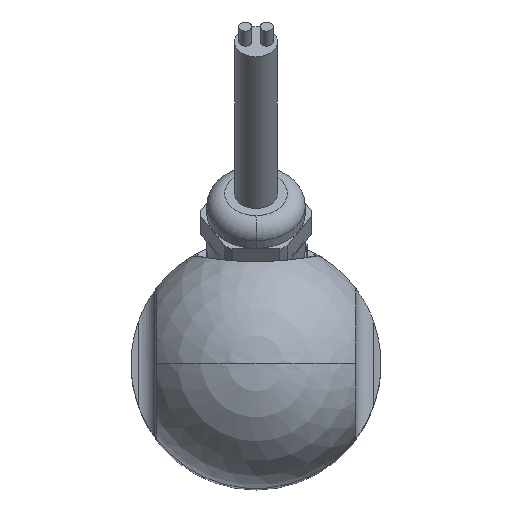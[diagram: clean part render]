
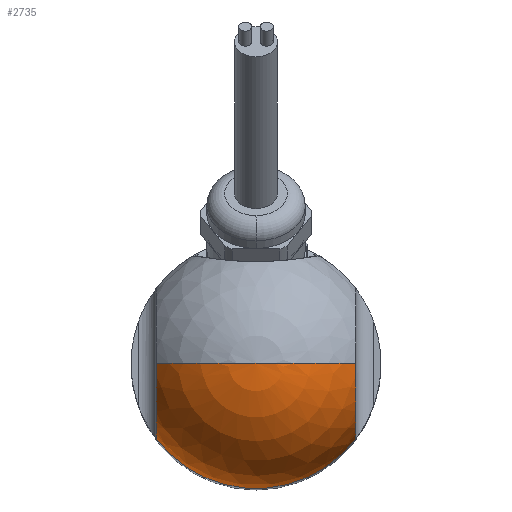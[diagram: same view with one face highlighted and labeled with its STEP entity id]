
A CAD part, top view. The second image highlights one B-rep face of the part: STEP entity #2735.
In plain terms, the highlighted spherical face has radius 17.5 mm.
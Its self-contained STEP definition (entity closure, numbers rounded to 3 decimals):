
#10=CARTESIAN_POINT('',(0.,0.,120.));
#11=DIRECTION('',(0.,0.,-1.));
#12=DIRECTION('',(0.8,-0.6,0.));
#13=AXIS2_PLACEMENT_3D('',#10,#11,#12);
#669=CARTESIAN_POINT('',(0.,0.,120.));
#670=DIRECTION('',(0.,1.,0.));
#671=DIRECTION('',(0.,0.,1.));
#672=AXIS2_PLACEMENT_3D('',#669,#670,#671);
#674=CARTESIAN_POINT('',(0.,0.,120.));
#675=DIRECTION('',(0.,-1.,0.));
#676=DIRECTION('',(0.,0.,1.));
#677=AXIS2_PLACEMENT_3D('',#674,#675,#676);
#726=CARTESIAN_POINT('',(14.,0.,120.));
#727=DIRECTION('',(-1.,0.,0.));
#728=DIRECTION('',(0.,-1.,0.));
#729=AXIS2_PLACEMENT_3D('',#726,#727,#728);
#731=CARTESIAN_POINT('',(-14.,0.,120.));
#732=DIRECTION('',(1.,0.,0.));
#733=DIRECTION('',(0.,0.,1.));
#734=AXIS2_PLACEMENT_3D('',#731,#732,#733);
#1399=CARTESIAN_POINT('',(14.,-10.5,120.));
#1400=CARTESIAN_POINT('',(14.,0.,130.5));
#1401=VERTEX_POINT('',#1399);
#1402=VERTEX_POINT('',#1400);
#1403=CARTESIAN_POINT('',(-14.,0.,130.5));
#1404=CARTESIAN_POINT('',(-14.,-10.5,120.));
#1405=VERTEX_POINT('',#1403);
#1406=VERTEX_POINT('',#1404);
#1413=CARTESIAN_POINT('',(0.,0.,137.5));
#1414=VERTEX_POINT('',#1413);
#2722=CARTESIAN_POINT('',(0.,0.,120.));
#2723=DIRECTION('',(0.,0.,-1.));
#2724=DIRECTION('',(1.,0.,0.));
#2725=AXIS2_PLACEMENT_3D('',#2722,#2723,#2724);
#2726=SPHERICAL_SURFACE('',#2725,17.5);
#2727=ORIENTED_EDGE('',*,*,#2685,.F.);
#2728=ORIENTED_EDGE('',*,*,#1708,.T.);
#2730=ORIENTED_EDGE('',*,*,#2729,.F.);
#2731=ORIENTED_EDGE('',*,*,#2669,.F.);
#2732=ORIENTED_EDGE('',*,*,#2667,.T.);
#2733=EDGE_LOOP('',(#2727,#2728,#2730,#2731,#2732));
#2734=FACE_OUTER_BOUND('',#2733,.F.);
#14=CIRCLE('',#13,17.5);
#673=CIRCLE('',#672,17.5);
#678=CIRCLE('',#677,17.5);
#730=CIRCLE('',#729,10.5);
#735=CIRCLE('',#734,10.5);
#1708=EDGE_CURVE('',#1401,#1406,#14,.T.);
#2667=EDGE_CURVE('',#1414,#1402,#673,.T.);
#2669=EDGE_CURVE('',#1414,#1405,#678,.T.);
#2685=EDGE_CURVE('',#1401,#1402,#730,.T.);
#2729=EDGE_CURVE('',#1405,#1406,#735,.T.);
#2735=ADVANCED_FACE('',(#2734),#2726,.T.);
